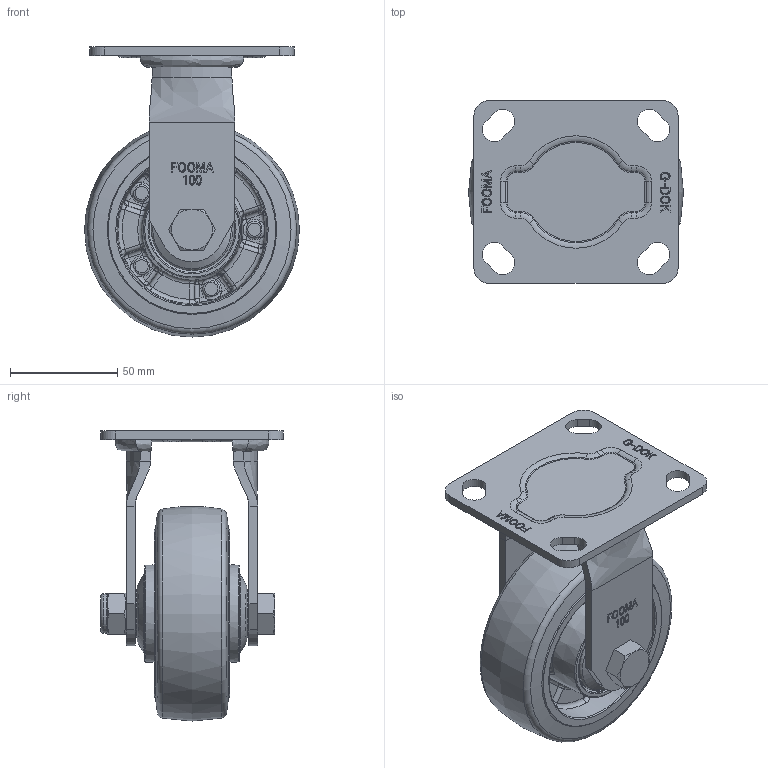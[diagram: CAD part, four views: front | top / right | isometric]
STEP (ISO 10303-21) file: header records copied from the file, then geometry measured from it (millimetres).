
FILE_DESCRIPTION(/* description */ (''),/* implementation_level */ '2;1');
FILE_NAME(/* name */ 'E:\★.DWG\★개발도면\PLM-SERIES(경중하중)-2016\홈페이지용\STEP\PLM-100-ARF-MUD.stp',/* time_stamp */ '2018-01-30T16:29:52+09:00',/* author */ ('장용하'),/* organization */ (''),/* preprocessor_version */ 'ST-DEVELOPER v16.13',/* originating_system */ 'Autodesk Inventor 2018',/* authorisation */ '');
FILE_SCHEMA (('AUTOMOTIVE_DESIGN { 1 0 10303 214 3 1 1 }'));
Length unit declared in the file: millimetre
Products named in the file (1): PLM-100-ARF-MUD ASSY_Shrinkwrap_1
Bounding box: 100 x 85 x 135 mm (x, y, z)
Volume: 281605.6 mm3; surface area: 75224.2 mm2
Topology: 1 solids, 1 shells, 996 faces, 2473 edges, 1537 vertices
Faces by surface type: plane 372, bspline 322, torus 142, cylinder 95, sphere 40, cone 25
Full cylindrical faces by diameter (mm): 18.5 x1, 22 x4, 36 x2, 38 x2, 40 x2, 78 x2
Entity records: 34449 total; most frequent: CARTESIAN_POINT 11773, ORIENTED_EDGE 4786, DIRECTION 3891, EDGE_CURVE 2393, VERTEX_POINT 1517, AXIS2_PLACEMENT_3D 1456, EDGE_LOOP 1124, STYLED_ITEM 997
